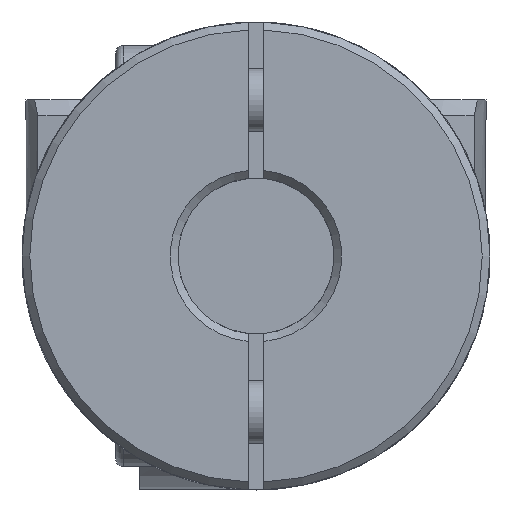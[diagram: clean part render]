
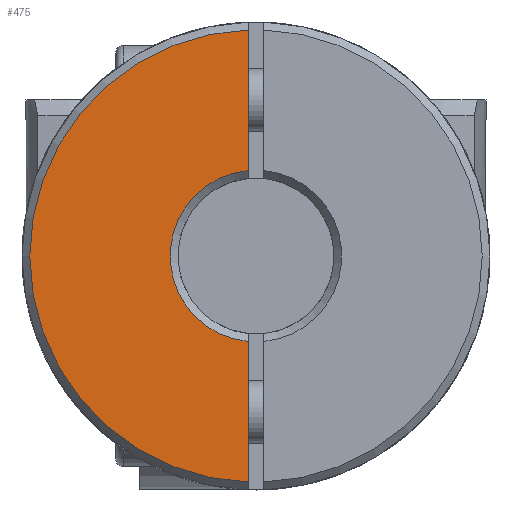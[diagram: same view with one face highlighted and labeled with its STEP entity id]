
A CAD part, front view. The second image highlights one B-rep face of the part: STEP entity #475.
In plain terms, the highlighted planar face has unit normal (0, -1, 0) as drawn and (0, 1, 0) by its records, which use the part's own axes.
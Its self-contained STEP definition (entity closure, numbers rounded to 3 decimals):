
#475 = ADVANCED_FACE( '', ( #781 ), #782, .T. );
#781 = FACE_OUTER_BOUND( '', #1140, .T. );
#782 = PLANE( '', #1141 );
#1140 = EDGE_LOOP( '', ( #1583, #1584, #1585, #1586 ) );
#1141 = AXIS2_PLACEMENT_3D( '', #1587, #1588, #1589 );
#1583 = ORIENTED_EDGE( '', *, *, #2656, .T. );
#1584 = ORIENTED_EDGE( '', *, *, #2657, .T. );
#1585 = ORIENTED_EDGE( '', *, *, #2652, .T. );
#1586 = ORIENTED_EDGE( '', *, *, #2658, .T. );
#1587 = CARTESIAN_POINT( '', ( 0., 0., 0. ) );
#1588 = DIRECTION( '', ( 0., 1., 0. ) );
#1589 = DIRECTION( '', ( 0., 0., 1. ) );
#2652 = EDGE_CURVE( '', #3021, #3019, #3022, .T. );
#2656 = EDGE_CURVE( '', #3027, #3028, #3029, .T. );
#2657 = EDGE_CURVE( '', #3028, #3021, #3030, .T. );
#2658 = EDGE_CURVE( '', #3019, #3027, #3031, .F. );
#3019 = VERTEX_POINT( '', #4016 );
#3021 = VERTEX_POINT( '', #4021 );
#3022 = LINE( '', #4022, #4023 );
#3027 = VERTEX_POINT( '', #4032 );
#3028 = VERTEX_POINT( '', #4033 );
#3029 = LINE( '', #4034, #4035 );
#3030 = CIRCLE( '', #4036, 14.5 );
#3031 = CIRCLE( '', #4037, 5.5 );
#4016 = CARTESIAN_POINT( '', ( -0.5, 0., 5.477 ) );
#4021 = CARTESIAN_POINT( '', ( -0.5, 0., 14.491 ) );
#4022 = CARTESIAN_POINT( '', ( -0.5, 0., 15. ) );
#4023 = VECTOR( '', #4917, 1000. );
#4032 = CARTESIAN_POINT( '', ( -0.5, 0., -5.477 ) );
#4033 = CARTESIAN_POINT( '', ( -0.5, 0., -14.491 ) );
#4034 = CARTESIAN_POINT( '', ( -0.5, 0., 15. ) );
#4035 = VECTOR( '', #4922, 1000. );
#4036 = AXIS2_PLACEMENT_3D( '', #4923, #4924, #4925 );
#4037 = AXIS2_PLACEMENT_3D( '', #4926, #4927, #4928 );
#4917 = DIRECTION( '', ( 0., 0., -1. ) );
#4922 = DIRECTION( '', ( 0., 0., -1. ) );
#4923 = CARTESIAN_POINT( '', ( 0., 0., 0. ) );
#4924 = DIRECTION( '', ( 0., 1., 0. ) );
#4925 = DIRECTION( '', ( 0., 0., 1. ) );
#4926 = CARTESIAN_POINT( '', ( 0., 0., 0. ) );
#4927 = DIRECTION( '', ( 0., 1., 0. ) );
#4928 = DIRECTION( '', ( 0., 0., 1. ) );
